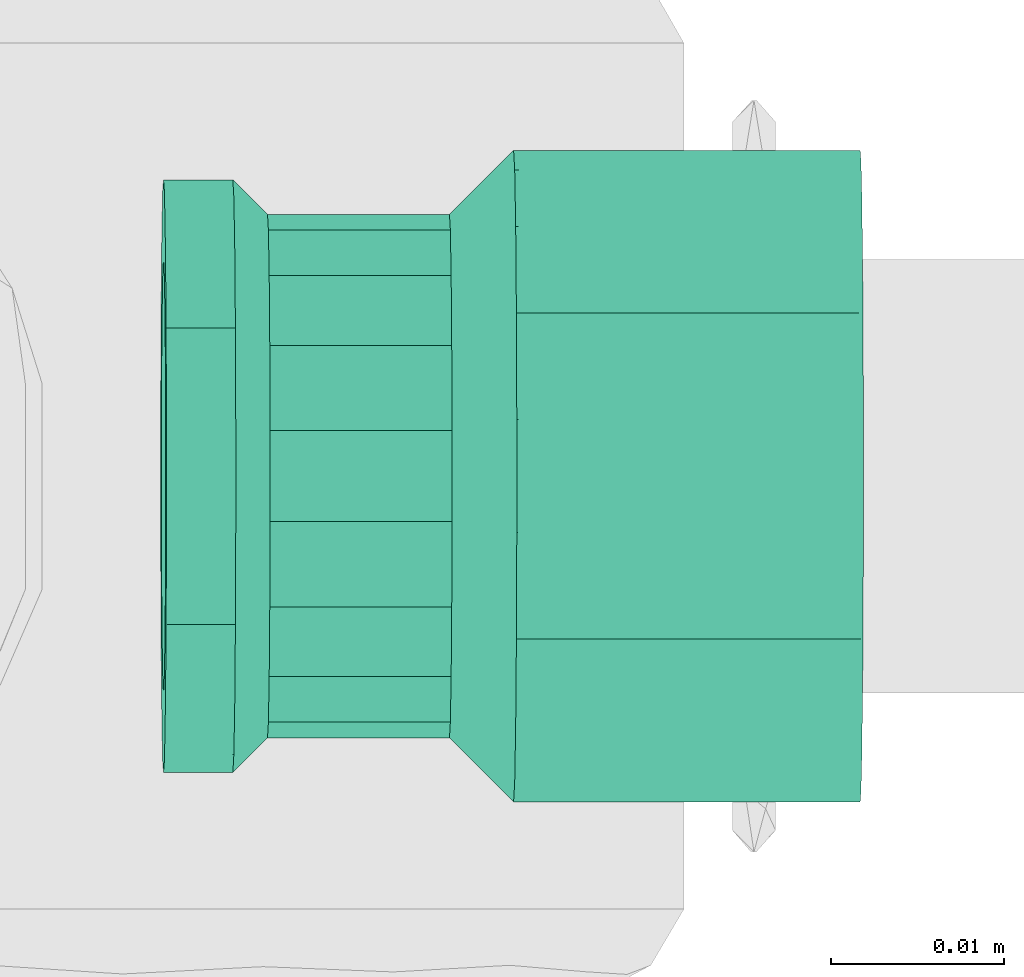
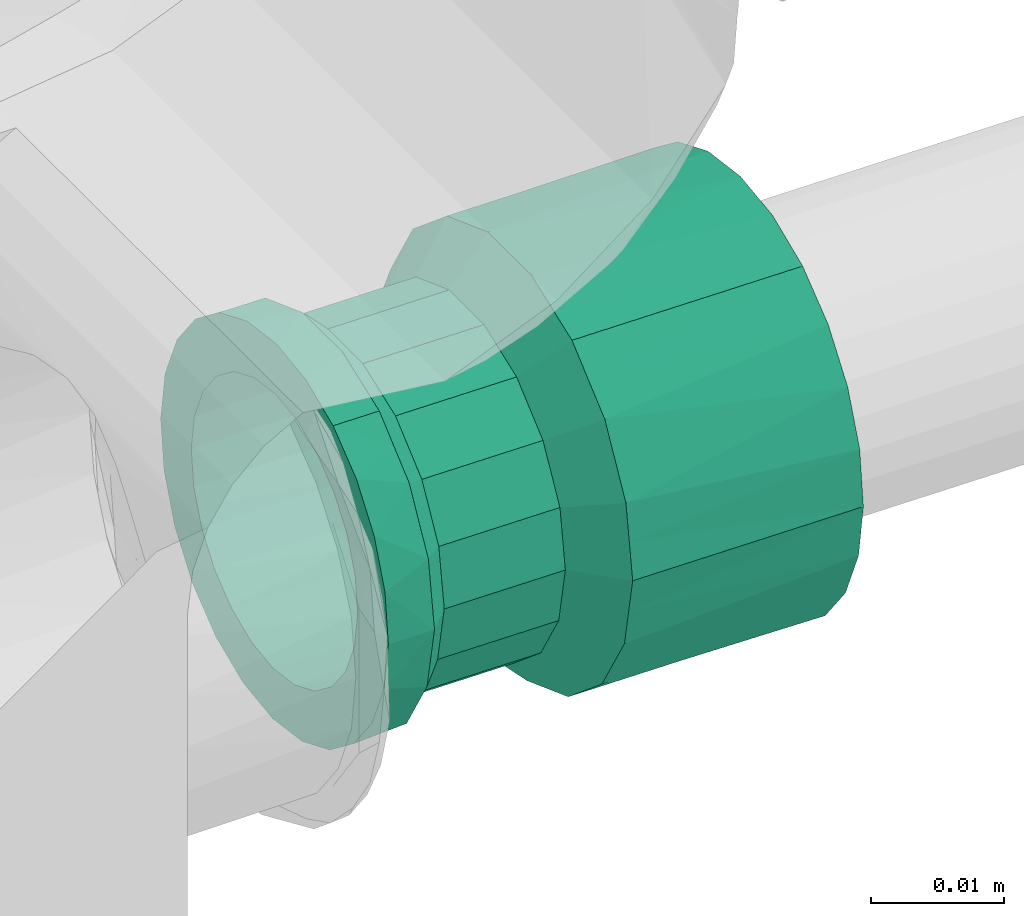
# One storey, part 323 of 589: 1 flow fitting.
"""IFC2X3 building model written with IfcOpenShell, lengths in millimetres."""

from ifc_helpers import new_model, entity, si_unit, converted_unit, derived_unit, direction, frame, origin, place, context, subcontext, project, spatial, faceted_brep, source, transform, mapped, material, type_object, type_shapes, element, save


model = new_model("IFC2X3")

# Units and contexts
model_context = context("Model", 3, precision=0.01, world=origin(), true_north=direction((6.123031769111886e-17, 1.0)))
body_context = subcontext(model_context, "Body", "Model", "MODEL_VIEW")
ifc_project = project(units=[si_unit("LENGTHUNIT", "METRE", prefix="MILLI"), si_unit("AREAUNIT", "SQUARE_METRE"), si_unit("VOLUMEUNIT", "CUBIC_METRE"), converted_unit("PLANEANGLEUNIT", "DEGREE", entity("IfcRatioMeasure", 0.017453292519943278), si_unit("PLANEANGLEUNIT", "RADIAN"), dimensions=[0, 0, 0, 0, 0, 0, 0]), si_unit("MASSUNIT", "GRAM", prefix="KILO"), derived_unit("MASSDENSITYUNIT", [(si_unit("MASSUNIT", "GRAM", prefix="KILO"), 1), (si_unit("LENGTHUNIT", "METRE"), -3)]), derived_unit("IONCONCENTRATIONUNIT", [(si_unit("MASSUNIT", "GRAM", prefix="KILO"), 1), (si_unit("LENGTHUNIT", "METRE"), -3)]), derived_unit("MOMENTOFINERTIAUNIT", [(si_unit("LENGTHUNIT", "METRE"), 4)]), si_unit("TIMEUNIT", "SECOND"), si_unit("FREQUENCYUNIT", "HERTZ"), si_unit("THERMODYNAMICTEMPERATUREUNIT", "DEGREE_CELSIUS"), derived_unit("THERMALTRANSMITTANCEUNIT", [(si_unit("MASSUNIT", "GRAM", prefix="KILO"), 1), (si_unit("THERMODYNAMICTEMPERATUREUNIT", "KELVIN"), -1), (si_unit("TIMEUNIT", "SECOND"), -3)]), derived_unit("THERMALCONDUCTANCEUNIT", [(si_unit("MASSUNIT", "GRAM", prefix="KILO"), 1), (si_unit("THERMODYNAMICTEMPERATUREUNIT", "KELVIN"), -1), (si_unit("TIMEUNIT", "SECOND"), -3), (si_unit("LENGTHUNIT", "METRE"), 1)]), derived_unit("VOLUMETRICFLOWRATEUNIT", [(si_unit("LENGTHUNIT", "METRE"), 3), (si_unit("TIMEUNIT", "SECOND"), -1)]), derived_unit("MASSFLOWRATEUNIT", [(si_unit("MASSUNIT", "GRAM", prefix="KILO"), 1), (si_unit("TIMEUNIT", "SECOND"), -1)]), derived_unit("ROTATIONALFREQUENCYUNIT", [(si_unit("TIMEUNIT", "SECOND"), -1)]), si_unit("ELECTRICCURRENTUNIT", "AMPERE"), si_unit("ELECTRICVOLTAGEUNIT", "VOLT"), si_unit("POWERUNIT", "WATT"), si_unit("FORCEUNIT", "NEWTON", prefix="KILO"), si_unit("ILLUMINANCEUNIT", "LUX"), si_unit("LUMINOUSFLUXUNIT", "LUMEN"), si_unit("LUMINOUSINTENSITYUNIT", "CANDELA"), derived_unit("USERDEFINED", [(si_unit("MASSUNIT", "GRAM", prefix="KILO"), -1), (si_unit("LENGTHUNIT", "METRE"), -2), (si_unit("TIMEUNIT", "SECOND"), 3), (si_unit("LUMINOUSFLUXUNIT", "LUMEN"), 1)]), derived_unit("USERDEFINED", [(si_unit("MASSUNIT", "GRAM", prefix="KILO"), 1), (si_unit("TIMEUNIT", "SECOND"), -3), (si_unit("LENGTHUNIT", "METRE"), 3), (si_unit("ELECTRICCURRENTUNIT", "AMPERE"), -2)]), derived_unit("SOUNDPOWERUNIT", [(si_unit("MASSUNIT", "GRAM", prefix="KILO"), 1), (si_unit("TIMEUNIT", "SECOND"), -3), (si_unit("LENGTHUNIT", "METRE"), 2)]), derived_unit("SOUNDPRESSUREUNIT", [(si_unit("MASSUNIT", "GRAM", prefix="KILO"), 1), (si_unit("LENGTHUNIT", "METRE"), -1), (si_unit("TIMEUNIT", "SECOND"), -2)]), derived_unit("LINEARVELOCITYUNIT", [(si_unit("LENGTHUNIT", "METRE"), 1), (si_unit("TIMEUNIT", "SECOND"), -1)]), si_unit("PRESSUREUNIT", "PASCAL"), derived_unit("USERDEFINED", [(si_unit("MASSUNIT", "GRAM", prefix="KILO"), 1), (si_unit("LENGTHUNIT", "METRE"), -2), (si_unit("TIMEUNIT", "SECOND"), -2)]), derived_unit("LINEARFORCEUNIT", [(si_unit("MASSUNIT", "GRAM", prefix="KILO"), 1), (si_unit("TIMEUNIT", "SECOND"), -2)]), derived_unit("PLANARFORCEUNIT", [(si_unit("MASSUNIT", "GRAM", prefix="KILO"), 1), (si_unit("LENGTHUNIT", "METRE"), -1), (si_unit("TIMEUNIT", "SECOND"), -2)]), derived_unit("SPECIFICHEATCAPACITYUNIT", [(si_unit("THERMODYNAMICTEMPERATUREUNIT", "KELVIN"), -1), (si_unit("LENGTHUNIT", "METRE"), 2), (si_unit("TIMEUNIT", "SECOND"), -2)]), derived_unit("HEATINGVALUEUNIT", [(si_unit("LENGTHUNIT", "METRE"), 2), (si_unit("TIMEUNIT", "SECOND"), -2)]), derived_unit("VAPORPERMEABILITYUNIT", [(si_unit("LENGTHUNIT", "METRE"), -1), (si_unit("TIMEUNIT", "SECOND"), 1)]), derived_unit("DYNAMICVISCOSITYUNIT", [(si_unit("MASSUNIT", "GRAM", prefix="KILO"), 1), (si_unit("TIMEUNIT", "SECOND"), -1), (si_unit("LENGTHUNIT", "METRE"), -1)]), derived_unit("THERMALEXPANSIONCOEFFICIENTUNIT", [(si_unit("THERMODYNAMICTEMPERATUREUNIT", "KELVIN"), -1)]), derived_unit("MODULUSOFELASTICITYUNIT", [(si_unit("MASSUNIT", "GRAM", prefix="KILO"), 1), (si_unit("LENGTHUNIT", "METRE"), -1), (si_unit("TIMEUNIT", "SECOND"), -2)]), derived_unit("ISOTHERMALMOISTURECAPACITYUNIT", [(si_unit("LENGTHUNIT", "METRE"), 3), (si_unit("MASSUNIT", "GRAM", prefix="KILO"), -1)]), derived_unit("MOISTUREDIFFUSIVITYUNIT", [(si_unit("TIMEUNIT", "SECOND"), -1), (si_unit("LENGTHUNIT", "METRE"), 2)])], contexts=[model_context])

# Site, building, storey
site_placement = place(None, origin())
site = spatial("IfcSite", under=ifc_project, at=site_placement, Name="Default", CompositionType="ELEMENT")
building_placement = place(site_placement, origin())
building = spatial("IfcBuilding", under=site, at=building_placement, CompositionType="ELEMENT")
storey_placement = place(building_placement, frame((0.0, 0.0, 100.0)))
storey = spatial("IfcBuildingStorey", under=building, at=storey_placement, Name="TÉRREO", CompositionType="ELEMENT", Elevation=100.0)

# Flow fitting
ifc_material = material(Name="PVC Azul")
pipe_fitting_type = type_object("IfcPipeFittingType", Name="Luva Soldavel com Bucha de Latao - Fortlev - AleBim:Standard", PredefinedType="NOTDEFINED", material=ifc_material)
shared_shape = source(origin(), body_context, "Body", "Brep", [
    faceted_brep([(0.0, -9.400000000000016, -16.28127759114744), (0.0, -13.2936074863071, -13.293607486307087), (0.0, -6.249999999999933, -10.825317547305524), (0.0, -3.235238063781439, -12.074072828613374), (0.0, -4.865798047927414, -18.15940553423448), (0.0, -8.838834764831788, -8.838834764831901), (0.0, -16.281277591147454, -9.399999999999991), (0.0, -10.82531754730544, -6.250000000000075), (0.0, -12.074072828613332, -3.2352380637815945), (0.0, -18.159405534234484, -4.865798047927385), (0.0, -12.5, 0.0), (0.0, -18.8, 0.0), (0.0, -12.074072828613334, 3.2352380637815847), (0.0, -18.159405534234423, 4.8657980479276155), (0.0, -10.825317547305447, 6.250000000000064), (0.0, -16.281277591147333, 9.400000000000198), (0.0, -8.838834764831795, 8.838834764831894), (0.0, -13.293607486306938, 13.29360748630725), (0.0, -6.249999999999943, 10.825317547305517), (0.0, -9.399999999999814, 16.281277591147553), (0.0, -3.23523806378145, 12.07407282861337), (0.0, -4.865798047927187, 18.159405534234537), (0.0, 0.0, 12.5), (0.0, 0.0, 18.8), (0.0, 3.2352380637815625, 12.074072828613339), (0.0, 4.865798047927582, 18.159405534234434), (0.0, 6.2500000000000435, 10.825317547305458), (0.0, 9.400000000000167, 16.28127759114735), (0.0, 8.838834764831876, 8.838834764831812), (0.0, 13.29360748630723, 13.293607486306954), (0.0, 10.825317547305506, 6.249999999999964), (0.0, 16.281277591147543, 9.399999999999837), (0.0, 18.159405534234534, 4.865798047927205), (0.0, 12.074072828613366, 3.2352380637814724), (0.0, 18.8, 0.0), (0.0, 12.5, 0.0), (0.0, 18.15940553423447, -4.865798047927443), (0.0, 12.074072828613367, -3.2352380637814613), (0.0, 16.281277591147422, -9.400000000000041), (0.0, 10.825317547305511, -6.249999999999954), (0.0, 13.293607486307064, -13.293607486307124), (0.0, 8.838834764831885, -8.838834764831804), (0.0, 9.399999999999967, -16.281277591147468), (0.0, 6.250000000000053, -10.825317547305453), (0.0, 4.86579804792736, -18.159405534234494), (0.0, 3.2352380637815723, -12.074072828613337), (0.0, 0.0, -18.8), (0.0, 0.0, -12.5), (20.0, 17.66604204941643, 6.4304710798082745), (20.0, 18.233021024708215, 3.2152355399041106), (20.0, 11.899800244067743, 14.183636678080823), (20.0, 14.400961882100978, 12.08520983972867), (20.0, 16.033501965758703, 9.257840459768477), (20.0, 6.330580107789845, 17.39840655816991), (20.0, 3.2625216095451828, 18.514749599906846), (20.0, 18.8, 0.0), (20.0, 9.398638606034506, 16.282063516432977), (20.0, -17.667654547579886, 6.4260394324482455), (20.0, -9.402722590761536, 16.279705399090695), (20.0, -6.334944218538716, 17.39681801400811), (20.0, -3.267165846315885, 18.513930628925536), (20.0, -14.403992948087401, 12.081597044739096), (20.0, -11.903357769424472, 14.180651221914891), (20.0, -18.8, 0.0), (20.0, -16.03582374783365, 9.253818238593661), (20.0, -0.0023221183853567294, 18.514340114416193), (20.0, -17.66765454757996, -6.426039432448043), (20.0, -11.903357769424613, -14.180651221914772), (20.0, -14.403992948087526, -12.081597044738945), (20.0, -16.035823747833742, -9.253818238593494), (20.0, -6.334944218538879, -17.39681801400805), (20.0, -3.2671658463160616, -18.513930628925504), (20.0, 18.233021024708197, -3.2152355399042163), (20.0, -9.402722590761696, -16.2797053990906), (20.0, 6.330580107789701, -17.398406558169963), (20.0, 3.2625216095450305, -18.514749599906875), (20.0, 9.398638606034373, -16.282063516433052), (20.0, 11.899800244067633, -14.183636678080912), (20.0, 17.66604204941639, -6.43047107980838), (20.0, 16.033501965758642, -9.257840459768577), (20.0, 14.400961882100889, -12.085209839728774), (20.0, -0.0023221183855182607, -18.51434011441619), (23.69999999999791, 14.19050976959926, 5.16134018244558), (23.699999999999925, 15.09999999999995, 0.0), (23.699999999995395, 5.088173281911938, 13.97297617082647), (23.699999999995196, 2.6241598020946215, 14.870231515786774), (23.699999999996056, 9.560675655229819, 11.38977837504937), (23.699999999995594, 7.552186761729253, 13.075720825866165), (23.699999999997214, 12.879837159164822, 7.432588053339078), (23.699999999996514, 11.569164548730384, 9.703835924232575), (23.699999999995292, 0.0018651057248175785, 14.870560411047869), (23.69999999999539, -2.620429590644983, 14.870889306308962), (23.699999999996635, -9.557818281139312, 11.392176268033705), (23.699999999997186, -11.566730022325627, 9.706737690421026), (23.699999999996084, -7.548906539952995, 13.077614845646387), (23.699999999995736, -5.084668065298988, 13.974252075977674), (23.699999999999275, -14.644607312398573, 2.582449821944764), (23.699999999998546, -14.189214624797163, 5.164899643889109), (23.700000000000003, -15.099999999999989, 0.0), (23.699999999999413, -14.732236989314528, 2.085517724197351), (23.699999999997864, -12.877972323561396, 7.4358186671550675), (23.699999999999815, -14.644607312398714, -2.582449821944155), (23.699999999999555, -14.18921462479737, -5.164899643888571), (23.699999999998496, -5.084668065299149, -13.97425207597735), (23.699999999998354, -2.620429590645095, -14.87088930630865), (23.69999999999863, -7.548906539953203, -13.077614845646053), (23.69999999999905, -11.566730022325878, -9.706737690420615), (23.69999999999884, -9.557818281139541, -11.392176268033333), (23.6999999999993, 14.190509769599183, -5.1613401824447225), (23.699999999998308, 0.0018651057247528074, -14.870560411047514), (23.699999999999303, -12.877972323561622, -7.435818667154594), (23.699999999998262, 2.6241598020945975, -14.870231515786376), (23.699999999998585, 9.56067565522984, -11.389778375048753), (23.699999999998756, 11.569164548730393, -9.703835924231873), (23.699999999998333, 5.088173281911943, -13.972976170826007), (23.69999999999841, 7.552186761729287, -13.075720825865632), (23.69999999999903, 12.879837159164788, -7.432588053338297), (34.20000000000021, -14.189214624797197, -5.164899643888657), (34.20000000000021, -14.73223698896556, -2.085517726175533), (34.20000000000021, -15.099999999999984, 0.0), (34.20000000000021, -9.55781828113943, -11.392176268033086), (34.20000000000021, -11.566730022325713, -9.706737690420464), (34.20000000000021, -7.548906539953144, -13.077614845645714), (34.20000000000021, -12.877972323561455, -7.43581866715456), (34.20000000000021, -2.620429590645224, -14.870889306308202), (34.20000000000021, -5.084668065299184, -13.974252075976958), (34.20000000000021, 2.6241598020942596, -14.870231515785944), (34.20000000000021, 0.0018651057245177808, -14.870560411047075), (34.20000000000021, 5.0881732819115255, -13.97297617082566), (34.20000000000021, 7.552186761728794, -13.075720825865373), (34.20000000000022, 11.56916454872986, -9.70383592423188), (34.200000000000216, 9.560675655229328, -11.389778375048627), (34.20000000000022, 12.879837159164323, -7.432588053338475), (34.20000000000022, 14.19050976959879, -5.161340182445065), (34.20000000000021, 15.100000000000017, 0.0), (34.199999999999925, 14.190509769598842, 5.161340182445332), (34.19999999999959, 7.552186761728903, 13.0757208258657), (34.199999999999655, 9.56067565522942, 11.389778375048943), (34.19999999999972, 11.569164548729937, 9.703835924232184), (34.199999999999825, 12.879837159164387, 7.432588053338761), (34.19999999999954, 2.624159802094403, 14.87023151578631), (34.19999999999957, 5.08817328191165, 13.972976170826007), (34.19999999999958, -2.6204295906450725, 14.870889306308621), (34.19999999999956, 0.0018651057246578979, 14.870560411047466), (34.199999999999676, -7.548906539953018, 13.077614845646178), (34.199999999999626, -5.084668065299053, 13.974252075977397), (34.20000000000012, -14.644607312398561, 2.582449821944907), (34.20000000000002, -14.18921462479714, 5.164899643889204), (34.199999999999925, -12.877972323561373, 7.435818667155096), (34.19999999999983, -11.566730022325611, 9.706737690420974), (34.199999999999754, -9.557818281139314, 11.392176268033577), (36.20000000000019, -17.099999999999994, 0.0), (36.20000000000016, -16.698266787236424, 2.2781566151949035), (36.199999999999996, -16.584290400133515, 2.9244961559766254), (36.200000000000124, -16.068580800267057, 5.848992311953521), (36.20000000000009, -14.583664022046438, 8.420695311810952), (36.20000000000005, -13.098747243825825, 10.992398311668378), (36.200000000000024, -10.823754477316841, 12.90107378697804), (36.2, -8.548761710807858, 14.809749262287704), (36.19999999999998, -5.758134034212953, 15.825146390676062), (36.19999999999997, -2.9675063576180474, 16.840543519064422), (36.19999999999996, 0.0021121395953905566, 16.84017106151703), (36.19999999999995, 2.9717306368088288, 16.839798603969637), (36.199999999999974, 8.55247639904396, 14.807604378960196), (36.19999999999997, 5.762103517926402, 15.823701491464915), (36.20000000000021, 17.100000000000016, 0.0), (36.2000000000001, 16.070047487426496, 5.844961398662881), (36.200000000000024, 13.101504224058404, 10.989112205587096), (36.20000000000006, 14.585775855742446, 8.417036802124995), (36.2, 10.826990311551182, 12.898358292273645), (36.20000000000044, 16.07004748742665, -5.844961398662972), (36.200000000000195, 0.0021121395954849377, -16.84017106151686), (36.20000000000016, -2.9675063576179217, -16.84054351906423), (36.20000000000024, 2.9717306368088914, -16.839798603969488), (36.200000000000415, 14.58577585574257, -8.417036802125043), (36.20000000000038, 13.10150422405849, -10.989112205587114), (36.20000000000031, 8.552476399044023, -14.807604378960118), (36.20000000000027, 5.7621035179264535, -15.823701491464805), (36.20000000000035, 10.826990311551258, -12.898358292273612), (36.20000000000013, -5.758134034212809, -15.825146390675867), (36.2000000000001, -8.548761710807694, -14.809749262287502), (36.200000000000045, -16.068580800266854, -5.848992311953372), (36.200000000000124, -16.58429040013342, -2.924496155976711), (36.20000000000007, -13.098747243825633, -10.992398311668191), (36.20000000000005, -14.583664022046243, -8.420695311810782), (36.20000000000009, -10.823754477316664, -12.901073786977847), (40.200000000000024, 8.550000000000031, -14.809034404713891), (40.200000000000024, 12.091525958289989, -12.091525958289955), (40.200000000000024, 6.2500000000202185, -10.825317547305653), (40.200000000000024, 3.2352380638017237, -12.074072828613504), (40.200000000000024, 4.425805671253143, -16.51733162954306), (40.200000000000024, 8.838834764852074, -8.838834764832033), (40.200000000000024, 14.809034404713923, -8.549999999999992), (40.200000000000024, 10.825317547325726, -6.250000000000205), (40.200000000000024, 12.074072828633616, -3.235238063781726), (40.200000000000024, 16.517331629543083, -4.4258056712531), (40.200000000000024, 12.500000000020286, 0.0), (40.200000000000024, 17.100000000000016, 0.0), (40.200000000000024, 12.074072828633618, 3.2352380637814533), (40.200000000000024, 16.51733162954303, 4.42580567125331), (40.200000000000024, 10.825317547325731, 6.2499999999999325), (40.200000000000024, 14.809034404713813, 8.550000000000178), (40.200000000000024, 8.83883476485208, 8.838834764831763), (40.200000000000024, 12.091525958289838, 12.091525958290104), (40.200000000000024, 6.250000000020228, 10.825317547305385), (40.200000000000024, 8.549999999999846, 14.809034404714), (40.200000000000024, 3.235238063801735, 12.074072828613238), (40.200000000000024, 4.425805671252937, 16.51733162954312), (40.200000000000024, 0.0, 12.49999999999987), (40.200000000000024, 0.0, 17.1), (40.200000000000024, -3.235238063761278, 12.07407282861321), (40.200000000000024, -4.425805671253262, 16.51733162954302), (40.200000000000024, -6.249999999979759, 10.825317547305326), (40.200000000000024, -8.550000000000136, 14.809034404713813), (40.200000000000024, -8.838834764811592, 8.838834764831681), (40.200000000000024, -12.091525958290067, 12.091525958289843), (40.200000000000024, -10.825317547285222, 6.249999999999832), (40.200000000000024, -14.809034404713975, 8.549999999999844), (40.200000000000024, -16.517331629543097, 4.425805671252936), (40.200000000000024, -12.07407282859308, 3.2352380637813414), (40.200000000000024, -17.099999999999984, 0.0), (40.200000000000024, -12.499999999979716, 0.0), (40.200000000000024, -16.517331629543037, -4.425805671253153), (40.200000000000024, -12.074072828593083, -3.2352380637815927), (40.200000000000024, -14.809034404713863, -8.550000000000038), (40.200000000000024, -10.825317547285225, -6.250000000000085), (40.200000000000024, -12.09152595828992, -12.09152595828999), (40.200000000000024, -8.838834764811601, -8.838834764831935), (40.200000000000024, -8.549999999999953, -14.80903440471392), (40.200000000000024, -6.249999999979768, -10.825317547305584), (40.200000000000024, -4.425805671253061, -16.517331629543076), (40.200000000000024, -3.2352380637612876, -12.074072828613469), (40.200000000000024, 0.0, -17.1), (40.200000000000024, 0.0, -12.500000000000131), (24.0, 3.23523806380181, -12.074072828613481), (24.0, 6.250000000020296, -10.825317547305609), (24.0, 8.838834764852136, -8.83883476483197), (24.0, 10.825317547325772, -6.250000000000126), (24.0, 12.07407282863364, -3.2352380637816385), (24.0, 12.500000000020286, 0.0), (24.0, 12.074072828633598, 3.235238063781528), (24.0, 10.825317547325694, 6.249999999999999), (24.0, 8.838834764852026, 8.838834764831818), (24.0, 6.250000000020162, 10.825317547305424), (24.0, 3.2352380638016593, 12.074072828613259), (24.0, 0.0, 12.49999999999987), (24.0, -3.235238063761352, 12.07407282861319), (24.0, -6.249999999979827, 10.82531754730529), (24.0, -8.83883476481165, 8.83883476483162), (24.0, -10.82531754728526, 6.24999999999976), (24.0, -12.074072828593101, 3.235238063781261), (24.0, -12.499999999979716, 0.0), (24.0, -12.07407282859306, -3.235238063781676), (24.0, -10.825317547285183, -6.250000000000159), (24.0, -8.838834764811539, -8.838834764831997), (24.0, -6.2499999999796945, -10.825317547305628), (24.0, -3.2352380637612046, -12.074072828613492), (24.0, 0.0, -12.500000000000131), (16.200000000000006, -12.074072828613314, 3.2352380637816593), (16.200000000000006, -12.5, 0.0), (16.200000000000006, -10.825317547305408, 6.250000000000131), (16.200000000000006, -8.838834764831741, 8.83883476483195), (16.200000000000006, -6.2499999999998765, 10.825317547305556), (16.200000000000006, -3.2352380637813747, 12.07407282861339), (16.200000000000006, 0.0, 12.5), (16.200000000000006, 6.250000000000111, 10.825317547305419), (16.200000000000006, 3.235238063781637, 12.074072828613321), (16.200000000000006, 8.838834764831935, 8.838834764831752), (16.200000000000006, 10.825317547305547, 6.249999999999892), (16.200000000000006, 12.074072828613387, 3.235238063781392), (16.200000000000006, 12.5, 0.0), (16.200000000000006, 12.074072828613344, -3.2352380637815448), (16.200000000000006, 10.825317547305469, -6.2500000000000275), (16.200000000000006, 8.838834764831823, -8.838834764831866), (16.200000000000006, 6.24999999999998, -10.825317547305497), (16.200000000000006, 3.2352380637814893, -12.07407282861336), (16.200000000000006, 0.0, -12.5), (16.200000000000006, -6.250000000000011, -10.82531754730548), (16.200000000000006, -3.2352380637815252, -12.07407282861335), (16.200000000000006, -8.83883476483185, -8.838834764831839), (16.200000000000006, -10.825317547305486, -6.249999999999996), (16.200000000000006, -12.074072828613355, -3.2352380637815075)], [[[0, 1, 2]], [[0, 2, 3]], [[3, 4, 0]], [[2, 1, 5]], [[6, 5, 1]], [[7, 5, 6]], [[8, 7, 6]], [[8, 6, 9]], [[8, 9, 10]], [[10, 9, 11]], [[12, 10, 11]], [[12, 11, 13]], [[14, 12, 13]], [[14, 13, 15]], [[16, 14, 15]], [[15, 17, 16]], [[17, 18, 16]], [[18, 17, 19]], [[18, 19, 20]], [[21, 20, 19]], [[20, 21, 22]], [[22, 21, 23]], [[23, 24, 22]], [[24, 23, 25]], [[24, 25, 26]], [[27, 26, 25]], [[27, 28, 26]], [[27, 29, 28]], [[30, 28, 29]], [[31, 30, 29]], [[32, 30, 31]], [[33, 30, 32]], [[33, 32, 34]], [[34, 35, 33]], [[36, 35, 34]], [[36, 37, 35]], [[37, 36, 38]], [[39, 37, 38]], [[39, 38, 40]], [[39, 40, 41]], [[40, 42, 41]], [[41, 42, 43]], [[43, 42, 44]], [[44, 45, 43]], [[46, 45, 44]], [[4, 47, 46]], [[45, 46, 47]], [[4, 3, 47]], [[32, 48, 49]], [[50, 51, 29]], [[52, 48, 31, 51]], [[53, 25, 54]], [[48, 32, 31]], [[34, 49, 55]], [[25, 53, 27]], [[27, 56, 50]], [[29, 51, 31]], [[13, 57, 15]], [[19, 58, 59]], [[53, 56, 27]], [[21, 19, 59]], [[54, 25, 23]], [[29, 27, 50]], [[59, 60, 21]], [[61, 62, 17]], [[63, 57, 13]], [[32, 49, 34]], [[64, 61, 15, 57]], [[11, 63, 13]], [[17, 62, 19]], [[65, 54, 23, 60]], [[61, 17, 15]], [[19, 62, 58]], [[21, 60, 23]], [[66, 63, 9]], [[67, 68, 1]], [[69, 66, 6, 68]], [[70, 4, 71]], [[66, 9, 6]], [[63, 11, 9]], [[1, 68, 6]], [[34, 55, 72]], [[70, 73, 0]], [[71, 4, 46]], [[74, 75, 44]], [[42, 76, 74]], [[42, 77, 76]], [[36, 78, 38]], [[38, 78, 79, 80]], [[36, 34, 72]], [[77, 40, 80]], [[72, 78, 36]], [[0, 73, 67]], [[81, 71, 46, 75]], [[1, 0, 67]], [[4, 70, 0]], [[80, 40, 38]], [[40, 77, 42]], [[44, 75, 46]], [[44, 42, 74]], [[82, 83, 49]], [[84, 53, 85]], [[86, 50, 87]], [[88, 52, 89]], [[53, 54, 85]], [[50, 56, 87]], [[49, 48, 82]], [[52, 51, 89]], [[87, 56, 84]], [[83, 55, 49]], [[88, 48, 52]], [[51, 50, 86]], [[85, 54, 90]], [[82, 48, 88]], [[56, 53, 84]], [[89, 51, 86]], [[65, 60, 91]], [[92, 62, 93]], [[59, 58, 94]], [[90, 65, 91]], [[95, 59, 94]], [[96, 97, 57]], [[63, 98, 99, 96]], [[64, 57, 97]], [[100, 64, 97]], [[62, 61, 93]], [[93, 61, 100]], [[59, 95, 60]], [[92, 58, 62]], [[61, 64, 100]], [[63, 96, 57]], [[94, 58, 92]], [[54, 65, 90]], [[91, 60, 95]], [[66, 101, 63]], [[98, 63, 101]], [[66, 102, 101]], [[103, 71, 104]], [[105, 73, 70]], [[106, 68, 67]], [[107, 73, 105]], [[102, 66, 69]], [[108, 78, 72]], [[70, 71, 103]], [[109, 104, 81]], [[69, 68, 110]], [[81, 75, 109]], [[110, 102, 69]], [[67, 73, 107]], [[107, 106, 67]], [[75, 111, 109]], [[112, 80, 113]], [[111, 75, 74]], [[110, 68, 106]], [[81, 104, 71]], [[114, 76, 115]], [[103, 105, 70]], [[113, 80, 79]], [[116, 78, 108]], [[115, 76, 77]], [[116, 113, 79]], [[79, 78, 116]], [[55, 83, 72]], [[77, 80, 112]], [[108, 72, 83]], [[112, 115, 77]], [[74, 76, 114]], [[114, 111, 74]], [[117, 118, 119, 98, 101, 102]], [[120, 121, 106, 107, 105, 122]], [[121, 123, 117, 102, 110, 106]], [[124, 125, 122, 105, 103, 104]], [[126, 127, 124, 104, 109, 111]], [[128, 126, 111, 114, 115, 129]], [[112, 113, 130, 131, 129, 115]], [[132, 130, 113, 116, 108, 133]], [[108, 83, 134, 133]], [[135, 134, 83, 82]], [[136, 137, 138, 89, 86, 87]], [[138, 139, 135, 82, 88, 89]], [[140, 141, 136, 87, 84, 85]], [[90, 91, 142, 143, 140, 85]], [[95, 94, 144, 145, 142, 91]], [[99, 98, 119, 146, 147, 97, 96]], [[148, 149, 93, 100, 97, 147]], [[92, 93, 149, 150, 144, 94]], [[147, 146, 119, 151, 152, 153, 154]], [[148, 147, 154, 155, 156, 149]], [[150, 149, 156, 157, 158, 144]], [[158, 159, 160, 142, 145, 144]], [[161, 162, 140, 143, 142, 160]], [[163, 136, 141, 140, 162, 164]], [[165, 134, 135, 166]], [[167, 168, 166, 135, 139, 138]], [[163, 169, 167, 138, 137, 136]], [[170, 133, 134, 165]], [[171, 172, 124, 127, 126, 173]], [[132, 133, 170, 174, 175, 130]], [[126, 128, 129, 176, 177, 173]], [[175, 178, 176, 129, 131, 130]], [[125, 124, 172, 179, 180, 122]], [[151, 119, 118, 117, 181, 182]], [[183, 184, 181, 117, 123, 121]], [[180, 185, 183, 121, 120, 122]], [[186, 187, 188]], [[186, 188, 189]], [[189, 190, 186]], [[188, 187, 191]], [[192, 191, 187]], [[193, 191, 192]], [[194, 193, 192]], [[194, 192, 195]], [[194, 195, 196]], [[196, 195, 197]], [[198, 196, 197]], [[198, 197, 199]], [[200, 198, 199]], [[200, 199, 201]], [[202, 200, 201]], [[201, 203, 202]], [[203, 204, 202]], [[204, 203, 205]], [[204, 205, 206]], [[207, 206, 205]], [[206, 207, 208]], [[208, 207, 209]], [[209, 210, 208]], [[210, 209, 211]], [[210, 211, 212]], [[213, 212, 211]], [[213, 214, 212]], [[213, 215, 214]], [[216, 214, 215]], [[217, 216, 215]], [[218, 216, 217]], [[219, 216, 218]], [[219, 218, 220]], [[220, 221, 219]], [[222, 221, 220]], [[222, 223, 221]], [[223, 222, 224]], [[225, 223, 224]], [[225, 224, 226]], [[225, 226, 227]], [[226, 228, 227]], [[227, 228, 229]], [[229, 228, 230]], [[230, 231, 229]], [[232, 231, 230]], [[190, 233, 232]], [[231, 232, 233]], [[190, 189, 233]], [[218, 154, 153]], [[157, 156, 215]], [[155, 154, 217, 156]], [[159, 211, 160]], [[154, 218, 217]], [[220, 153, 152, 151]], [[213, 158, 157]], [[215, 213, 157]], [[215, 156, 217]], [[205, 163, 164]], [[207, 205, 164]], [[159, 158, 213]], [[211, 159, 213]], [[160, 211, 209]], [[218, 153, 220]], [[164, 162, 207]], [[167, 169, 203]], [[165, 166, 199]], [[168, 167, 201, 166]], [[197, 165, 199]], [[203, 169, 205]], [[161, 160, 209, 162]], [[207, 162, 209]], [[167, 203, 201]], [[205, 169, 163]], [[199, 166, 201]], [[170, 165, 195]], [[178, 175, 187]], [[174, 170, 192, 175]], [[177, 190, 173]], [[170, 195, 192]], [[165, 197, 195]], [[190, 177, 186]], [[186, 176, 178]], [[187, 175, 192]], [[222, 220, 182]], [[228, 180, 179]], [[177, 176, 186]], [[230, 228, 179]], [[173, 190, 232]], [[187, 186, 178]], [[179, 172, 230]], [[183, 185, 226]], [[182, 181, 222]], [[184, 183, 224, 181]], [[222, 181, 224]], [[226, 185, 228]], [[171, 173, 232, 172]], [[230, 172, 232]], [[183, 226, 224]], [[228, 185, 180]], [[220, 151, 182]], [[234, 235, 236, 237, 238, 239, 240, 241, 242, 243, 244, 245, 246, 247, 248, 249, 250, 251, 252, 253, 254, 255, 256, 257]], [[250, 219, 221, 251]], [[12, 258, 259, 10]], [[249, 216, 219, 250]], [[14, 260, 258, 12]], [[214, 248, 247, 212]], [[261, 16, 18, 262]], [[249, 248, 214, 216]], [[261, 260, 14, 16]], [[212, 247, 246, 210]], [[262, 18, 20, 263]], [[210, 246, 245, 208]], [[20, 22, 264, 263]], [[243, 204, 206, 244]], [[26, 265, 266, 24]], [[242, 202, 204, 243]], [[28, 267, 265, 26]], [[200, 241, 240, 198]], [[268, 30, 33, 269]], [[242, 241, 200, 202]], [[268, 267, 28, 30]], [[198, 240, 239, 196]], [[269, 33, 35, 270]], [[206, 208, 245, 244]], [[24, 266, 264, 22]], [[238, 194, 196, 239]], [[37, 271, 270, 35]], [[237, 193, 194, 238]], [[39, 272, 271, 37]], [[191, 236, 235, 188]], [[273, 41, 43, 274]], [[237, 236, 191, 193]], [[273, 272, 39, 41]], [[188, 235, 234, 189]], [[274, 43, 45, 275]], [[189, 234, 257, 233]], [[45, 47, 276, 275]], [[255, 229, 231, 256]], [[2, 277, 278, 3]], [[254, 227, 229, 255]], [[5, 279, 277, 2]], [[225, 253, 252, 223]], [[280, 7, 8, 281]], [[254, 253, 225, 227]], [[280, 279, 5, 7]], [[223, 252, 251, 221]], [[281, 8, 10, 259]], [[231, 233, 257, 256]], [[3, 278, 276, 47]], [[278, 277, 279, 280, 281, 259, 258, 260, 261, 262, 263, 264, 266, 265, 267, 268, 269, 270, 271, 272, 273, 274, 275, 276]]]),
])
type_shapes(pipe_fitting_type, [shared_shape])
flow_fitting_placement = place(storey_placement, frame((-233.66124987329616, -7887.8612457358, 2579.037588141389), z_axis=(0.009999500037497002, 0.0, 0.9999500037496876), x_axis=(-0.9999500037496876, 0.0, 0.009999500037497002)))
element("IfcFlowFitting", 1, at=flow_fitting_placement, inside=storey, type_object=pipe_fitting_type, material=ifc_material, Name="Luva Soldavel com Bucha de Latao - Fortlev - AleBim:Standard", ObjectType="Luva Soldavel com Bucha de Latao - Fortlev - AleBim:Standard", context=body_context, shape_type="MappedRepresentation", body=[
    mapped(shared_shape, transform((0.0, 0.0, 0.0), scale=1.0)),
])

save(model, "model.ifc")
